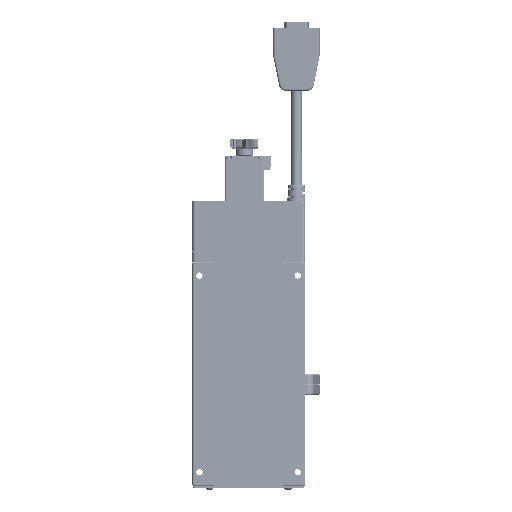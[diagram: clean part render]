
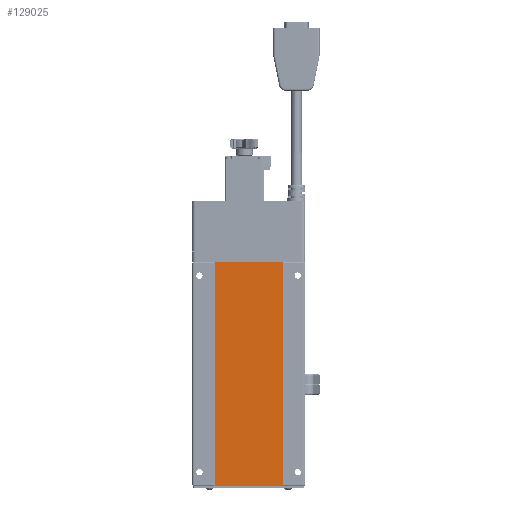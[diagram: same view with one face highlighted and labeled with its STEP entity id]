
A CAD part, front view. The second image highlights one B-rep face of the part: STEP entity #129025.
In plain terms, the highlighted planar face has unit normal (0, -1, 0).
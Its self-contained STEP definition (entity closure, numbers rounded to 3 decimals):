
#7251 = CARTESIAN_POINT ( 'NONE',  ( -24.3, 0.5, 0.2 ) ) ;
#18764 = ORIENTED_EDGE ( 'NONE', *, *, #33782, .T. ) ;
#19542 = LINE ( 'NONE', #190126, #65878 ) ;
#28233 = ORIENTED_EDGE ( 'NONE', *, *, #261143, .T. ) ;
#30983 = ORIENTED_EDGE ( 'NONE', *, *, #182763, .T. ) ;
#33782 = EDGE_CURVE ( 'NONE', #262328, #151245, #19542, .T. ) ;
#34936 = CARTESIAN_POINT ( 'NONE',  ( 24.3, 0.5, 0.2 ) ) ;
#51608 = CARTESIAN_POINT ( 'NONE',  ( -24.3, 0.5, 0.2 ) ) ;
#59928 = VERTEX_POINT ( 'NONE', #95140 ) ;
#63576 = AXIS2_PLACEMENT_3D ( 'NONE', #190557, #149324, #83987 ) ;
#65878 = VECTOR ( 'NONE', #192943, 1000. ) ;
#72678 = DIRECTION ( 'NONE',  ( 1., 0., 0. ) ) ;
#75100 = LINE ( 'NONE', #227157, #262882 ) ;
#75805 = VECTOR ( 'NONE', #182309, 1000. ) ;
#83987 = DIRECTION ( 'NONE',  ( -1., 0., 0. ) ) ;
#92852 = LINE ( 'NONE', #51608, #75805 ) ;
#95140 = CARTESIAN_POINT ( 'NONE',  ( -24.3, 0.5, 0.2 ) ) ;
#100164 = VERTEX_POINT ( 'NONE', #263873 ) ;
#126585 = PLANE ( 'NONE',  #63576 ) ;
#129025 = ADVANCED_FACE ( 'NONE', ( #189170 ), #126585, .F. ) ;
#149324 = DIRECTION ( 'NONE',  ( 0., 1., 0. ) ) ;
#151245 = VERTEX_POINT ( 'NONE', #242691 ) ;
#161762 = DIRECTION ( 'NONE',  ( -1., 0., 0. ) ) ;
#182309 = DIRECTION ( 'NONE',  ( 0., 0., -1. ) ) ;
#182763 = EDGE_CURVE ( 'NONE', #100164, #59928, #92852, .T. ) ;
#187338 = VECTOR ( 'NONE', #72678, 1000. ) ;
#189170 = FACE_OUTER_BOUND ( 'NONE', #196918, .T. ) ;
#190126 = CARTESIAN_POINT ( 'NONE',  ( 24.3, 0.5, 0.2 ) ) ;
#190557 = CARTESIAN_POINT ( 'NONE',  ( -24.3, 0.5, 159.8 ) ) ;
#192943 = DIRECTION ( 'NONE',  ( 0., 0., 1. ) ) ;
#194781 = ORIENTED_EDGE ( 'NONE', *, *, #232116, .T. ) ;
#196918 = EDGE_LOOP ( 'NONE', ( #30983, #194781, #18764, #28233 ) ) ;
#227157 = CARTESIAN_POINT ( 'NONE',  ( -24.3, 0.5, 159.8 ) ) ;
#232116 = EDGE_CURVE ( 'NONE', #59928, #262328, #247487, .T. ) ;
#242691 = CARTESIAN_POINT ( 'NONE',  ( 24.3, 0.5, 159.8 ) ) ;
#247487 = LINE ( 'NONE', #7251, #187338 ) ;
#261143 = EDGE_CURVE ( 'NONE', #151245, #100164, #75100, .T. ) ;
#262328 = VERTEX_POINT ( 'NONE', #34936 ) ;
#262882 = VECTOR ( 'NONE', #161762, 1000. ) ;
#263873 = CARTESIAN_POINT ( 'NONE',  ( -24.3, 0.5, 159.8 ) ) ;
